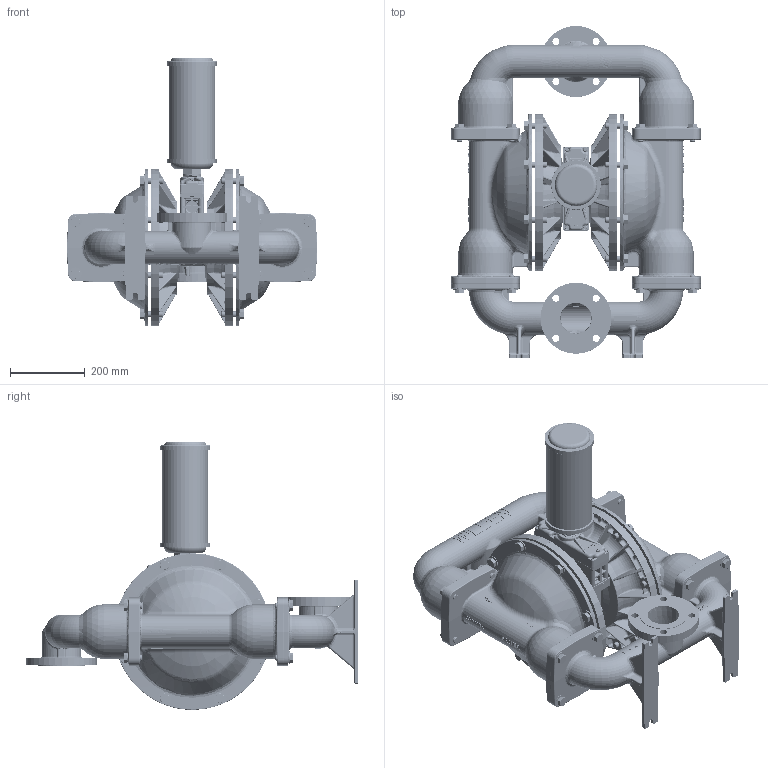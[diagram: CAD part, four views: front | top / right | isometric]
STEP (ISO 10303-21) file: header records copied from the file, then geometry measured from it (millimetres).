
FILE_DESCRIPTION((''),'2;1');
FILE_NAME('PS1530_DI_TOP_SW0001','2017-01-12T',('Nathan.hale'),(''),'PRO/ENGINEER BY PARAMETRIC TECHNOLOGY CORPORATION, 2015360','PRO/ENGINEER BY PARAMETRIC TECHNOLOGY CORPORATION, 2015360','');
FILE_SCHEMA(('CONFIG_CONTROL_DESIGN'));
Length unit declared in the file: inch
Products named in the file (1): PS1530_DI_TOP_SW0001
Bounding box: 672.77 x 890.9 x 721.03 mm (x, y, z)
Volume: 21350703.7 mm3; surface area: 4033079.1 mm2
Topology: 3 solids, 6 shells, 18986 faces, 48803 edges, 30516 vertices
Faces by surface type: plane 10728, bspline 3070, cylinder 1935, torus 1381, cone 1115, sphere 590, extrusion 167
Entity records: 1071242 total; most frequent: CARTESIAN_POINT 634404, ORIENTED_EDGE 97586, DIRECTION 81079, EDGE_CURVE 48793, VERTEX_POINT 30516, VECTOR 28905, LINE 28738, AXIS2_PLACEMENT_3D 26087
